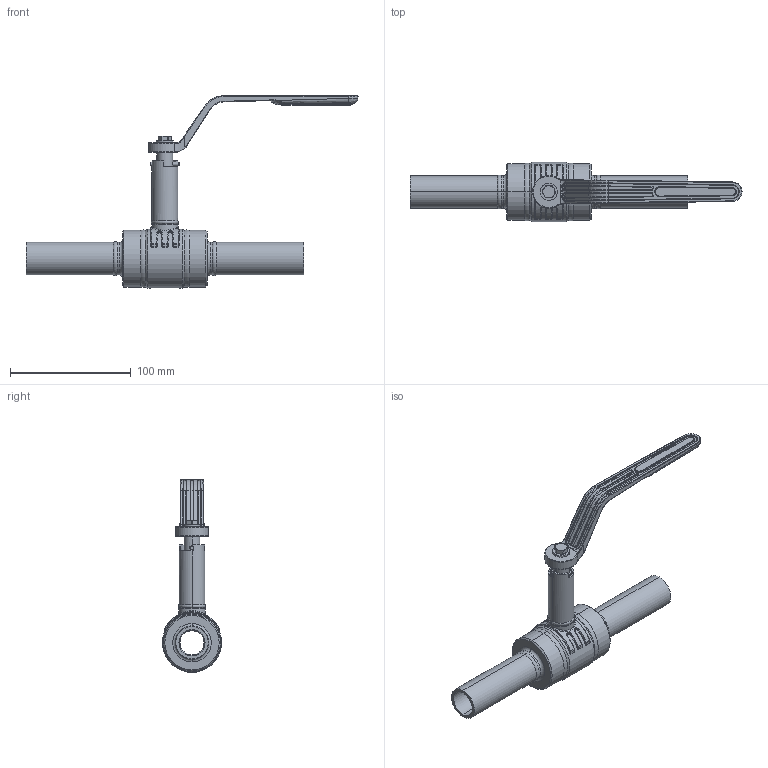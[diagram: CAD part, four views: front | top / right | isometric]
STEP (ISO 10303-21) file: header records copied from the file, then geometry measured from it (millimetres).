
FILE_DESCRIPTION((''),'2;1');
FILE_NAME('KHMO-S-V-H-020P040-VI_SW0001','2022-10-19T08:22:49',('jeitlers'),('KLINGER'),'CREO PARAMETRIC BY PTC INC, 2020184','CREO PARAMETRIC BY PTC INC, 2020184','');
FILE_SCHEMA(('AUTOMOTIVE_DESIGN { 1 0 10303 214 1 1 1 1 }'));
Products named in the file (1): KHMO-S-V-H-020P040-VI_SW0001
Bounding box: 275 x 49 x 159.5 mm (x, y, z)
Volume: 168005.9 mm3; surface area: 74522.7 mm2
Topology: 1 solids, 1 shells, 651 faces, 1462 edges, 826 vertices
Faces by surface type: cylinder 213, bspline 142, plane 108, torus 101, cone 74, sphere 8, extrusion 5
Entity records: 37257 total; most frequent: CARTESIAN_POINT 22732, ORIENTED_EDGE 2920, DIRECTION 2813, EDGE_CURVE 1460, AXIS2_PLACEMENT_3D 1175, VERTEX_POINT 826, EDGE_LOOP 682, CIRCLE 658
